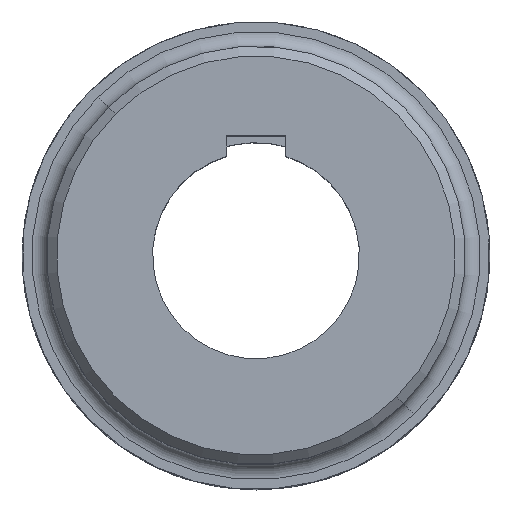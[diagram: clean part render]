
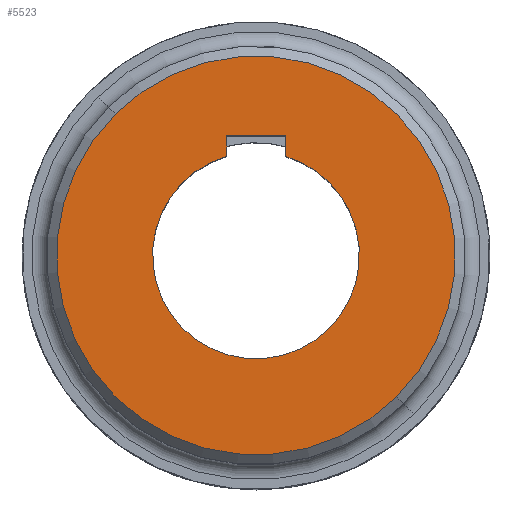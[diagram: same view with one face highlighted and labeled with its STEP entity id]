
A CAD part, top view. The second image highlights one B-rep face of the part: STEP entity #5523.
In plain terms, the highlighted planar face has unit normal (0, 0, 1) as drawn and (0, 0, -1) by its records, which use the part's own axes.
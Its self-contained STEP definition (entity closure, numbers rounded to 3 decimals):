
#111 = CIRCLE ( 'NONE', #347, 21. ) ;
#312 = EDGE_CURVE ( 'NONE', #6445, #4586, #6081, .T. ) ;
#328 = VECTOR ( 'NONE', #2312, 1000. ) ;
#347 = AXIS2_PLACEMENT_3D ( 'NONE', #5843, #5689, #4718 ) ;
#371 = CARTESIAN_POINT ( 'NONE',  ( 0., 0., -50. ) ) ;
#434 = CARTESIAN_POINT ( 'NONE',  ( -18.473, 9.988, -50. ) ) ;
#586 = AXIS2_PLACEMENT_3D ( 'NONE', #6919, #1819, #4732 ) ;
#650 = VERTEX_POINT ( 'NONE', #795 ) ;
#795 = CARTESIAN_POINT ( 'NONE',  ( -21., 0., -50. ) ) ;
#846 = DIRECTION ( 'NONE',  ( 0., -1., 0. ) ) ;
#1043 = DIRECTION ( 'NONE',  ( 0., 0., 1. ) ) ;
#1165 = CARTESIAN_POINT ( 'NONE',  ( 0., -40.5, -50. ) ) ;
#1251 = LINE ( 'NONE', #5818, #5639 ) ;
#1317 = CIRCLE ( 'NONE', #586, 40.5 ) ;
#1354 = CARTESIAN_POINT ( 'NONE',  ( -21.425, 12.94, -50. ) ) ;
#1584 = DIRECTION ( 'NONE',  ( -0.88, 0.476, 0. ) ) ;
#1801 = CIRCLE ( 'NONE', #6989, 40.5 ) ;
#1811 = VERTEX_POINT ( 'NONE', #434 ) ;
#1819 = DIRECTION ( 'NONE',  ( 0., 0., -1. ) ) ;
#1841 = CARTESIAN_POINT ( 'NONE',  ( 0., 0., -50. ) ) ;
#1921 = AXIS2_PLACEMENT_3D ( 'NONE', #1841, #4225, #6441 ) ;
#2199 = CARTESIAN_POINT ( 'NONE',  ( -12.94, 21.425, -50. ) ) ;
#2213 = CARTESIAN_POINT ( 'NONE',  ( 0., 0., -50. ) ) ;
#2312 = DIRECTION ( 'NONE',  ( -0.707, 0.707, 0. ) ) ;
#2325 = CARTESIAN_POINT ( 'NONE',  ( 21., 0., -50. ) ) ;
#2712 = DIRECTION ( 'NONE',  ( 0., 0., 1. ) ) ;
#3116 = CIRCLE ( 'NONE', #7329, 21. ) ;
#3264 = ORIENTED_EDGE ( 'NONE', *, *, #7440, .T. ) ;
#3474 = VERTEX_POINT ( 'NONE', #1354 ) ;
#3877 = EDGE_CURVE ( 'NONE', #1811, #650, #7262, .T. ) ;
#4171 = EDGE_CURVE ( 'NONE', #3474, #6445, #1251, .T. ) ;
#4225 = DIRECTION ( 'NONE',  ( 0., 0., 1. ) ) ;
#4262 = CARTESIAN_POINT ( 'NONE',  ( 0., 0., -50. ) ) ;
#4361 = ORIENTED_EDGE ( 'NONE', *, *, #4678, .F. ) ;
#4364 = PLANE ( 'NONE',  #7210 ) ;
#4453 = ORIENTED_EDGE ( 'NONE', *, *, #6027, .T. ) ;
#4512 = DIRECTION ( 'NONE',  ( 0.707, -0.707, 0. ) ) ;
#4568 = VECTOR ( 'NONE', #4512, 1000. ) ;
#4586 = VERTEX_POINT ( 'NONE', #4655 ) ;
#4655 = CARTESIAN_POINT ( 'NONE',  ( -9.988, 18.473, -50. ) ) ;
#4658 = ORIENTED_EDGE ( 'NONE', *, *, #7202, .F. ) ;
#4678 = EDGE_CURVE ( 'NONE', #5952, #7479, #1801, .T. ) ;
#4718 = DIRECTION ( 'NONE',  ( -0.88, 0.476, 0. ) ) ;
#4732 = DIRECTION ( 'NONE',  ( 0., 1., 0. ) ) ;
#4847 = EDGE_CURVE ( 'NONE', #6967, #4586, #111, .T. ) ;
#4929 = FACE_BOUND ( 'NONE', #6407, .T. ) ;
#5184 = CARTESIAN_POINT ( 'NONE',  ( -18.473, 9.988, -50. ) ) ;
#5446 = ORIENTED_EDGE ( 'NONE', *, *, #4171, .F. ) ;
#5490 = ORIENTED_EDGE ( 'NONE', *, *, #312, .F. ) ;
#5523 = ADVANCED_FACE ( 'NONE', ( #4929, #6587 ), #4364, .T. ) ;
#5588 = CARTESIAN_POINT ( 'NONE',  ( 0., 40.5, -50. ) ) ;
#5639 = VECTOR ( 'NONE', #6379, 1000. ) ;
#5689 = DIRECTION ( 'NONE',  ( 0., 0., 1. ) ) ;
#5818 = CARTESIAN_POINT ( 'NONE',  ( -21.425, 12.94, -50. ) ) ;
#5843 = CARTESIAN_POINT ( 'NONE',  ( 0., 0., -50. ) ) ;
#5895 = LINE ( 'NONE', #5184, #328 ) ;
#5952 = VERTEX_POINT ( 'NONE', #5588 ) ;
#6017 = DIRECTION ( 'NONE',  ( 0., 0., -1. ) ) ;
#6027 = EDGE_CURVE ( 'NONE', #5952, #7479, #1317, .T. ) ;
#6081 = LINE ( 'NONE', #2199, #4568 ) ;
#6252 = ORIENTED_EDGE ( 'NONE', *, *, #3877, .T. ) ;
#6379 = DIRECTION ( 'NONE',  ( 0.707, 0.707, 0. ) ) ;
#6407 = EDGE_LOOP ( 'NONE', ( #6252, #3264, #7007, #5490, #5446, #4658 ) ) ;
#6441 = DIRECTION ( 'NONE',  ( -0.88, 0.476, 0. ) ) ;
#6445 = VERTEX_POINT ( 'NONE', #6912 ) ;
#6587 = FACE_OUTER_BOUND ( 'NONE', #6822, .T. ) ;
#6743 = DIRECTION ( 'NONE',  ( 0., 1., 0. ) ) ;
#6822 = EDGE_LOOP ( 'NONE', ( #4453, #4361 ) ) ;
#6912 = CARTESIAN_POINT ( 'NONE',  ( -12.94, 21.425, -50. ) ) ;
#6919 = CARTESIAN_POINT ( 'NONE',  ( 0., 0., -50. ) ) ;
#6967 = VERTEX_POINT ( 'NONE', #2325 ) ;
#6989 = AXIS2_PLACEMENT_3D ( 'NONE', #2213, #1043, #6743 ) ;
#7007 = ORIENTED_EDGE ( 'NONE', *, *, #4847, .T. ) ;
#7202 = EDGE_CURVE ( 'NONE', #1811, #3474, #5895, .T. ) ;
#7210 = AXIS2_PLACEMENT_3D ( 'NONE', #4262, #6017, #846 ) ;
#7262 = CIRCLE ( 'NONE', #1921, 21. ) ;
#7329 = AXIS2_PLACEMENT_3D ( 'NONE', #371, #2712, #1584 ) ;
#7440 = EDGE_CURVE ( 'NONE', #650, #6967, #3116, .T. ) ;
#7479 = VERTEX_POINT ( 'NONE', #1165 ) ;
